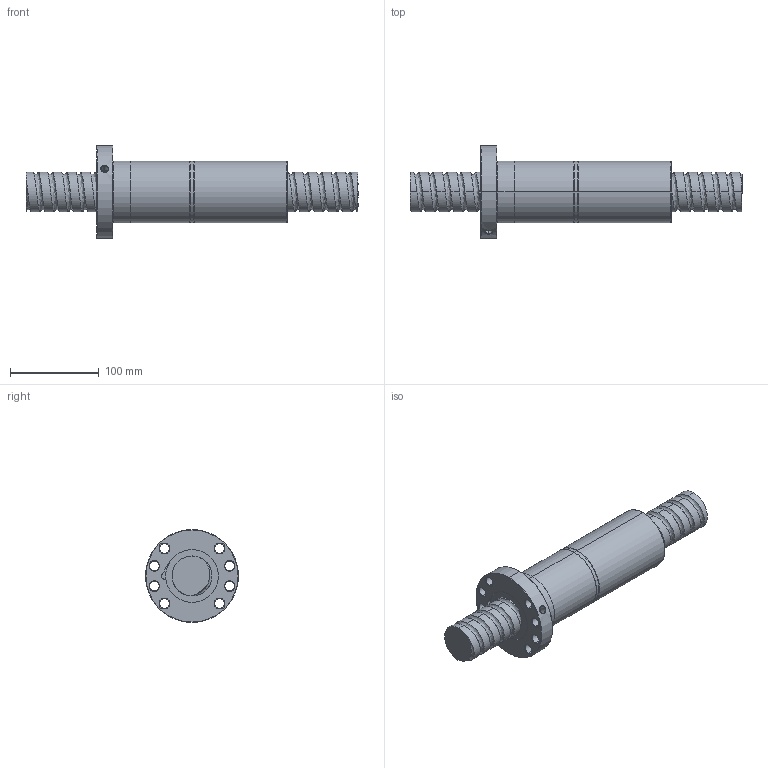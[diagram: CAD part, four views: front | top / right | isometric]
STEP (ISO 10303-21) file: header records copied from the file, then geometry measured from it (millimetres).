
FILE_DESCRIPTION (( 'STEP AP214' ), '1' );
FILE_NAME ('FDDC04516T5-F-A.STEP', '2010-07-07T02:14:49', ( 'XPAUTO' ), ( 'XPAUTO' ), 'SwSTEP 2.0', 'SolidWorks 2007', '' );
FILE_SCHEMA (( 'AUTOMOTIVE_DESIGN' ));
Length unit declared in the file: millimetre
Products named in the file (3): FDDC04516T5-F-A; FDDC04516T5-F-A.sldasm-Part-2_預設; FDDC04516T5-F-A.sldasm-Part-1_預設
Assembly tree (2 placements, depth 2):
  FDDC04516T5-F-A
    FDDC04516T5-F-A.sldasm-Part-2_預設
    FDDC04516T5-F-A.sldasm-Part-1_預設
Bounding box: 375 x 105 x 105 mm (x, y, z)
Volume: 1109935.7 mm3; surface area: 160358.3 mm2
Topology: 2 solids, 2 shells, 157 faces, 393 edges, 245 vertices
Faces by surface type: cylinder 94, cone 32, plane 16, torus 10, bspline 5
Entity records: 46564 total; most frequent: CARTESIAN_POINT 42823, ORIENTED_EDGE 786, DIRECTION 735, EDGE_CURVE 393, AXIS2_PLACEMENT_3D 301, VERTEX_POINT 245, EDGE_LOOP 182, ADVANCED_FACE 157
